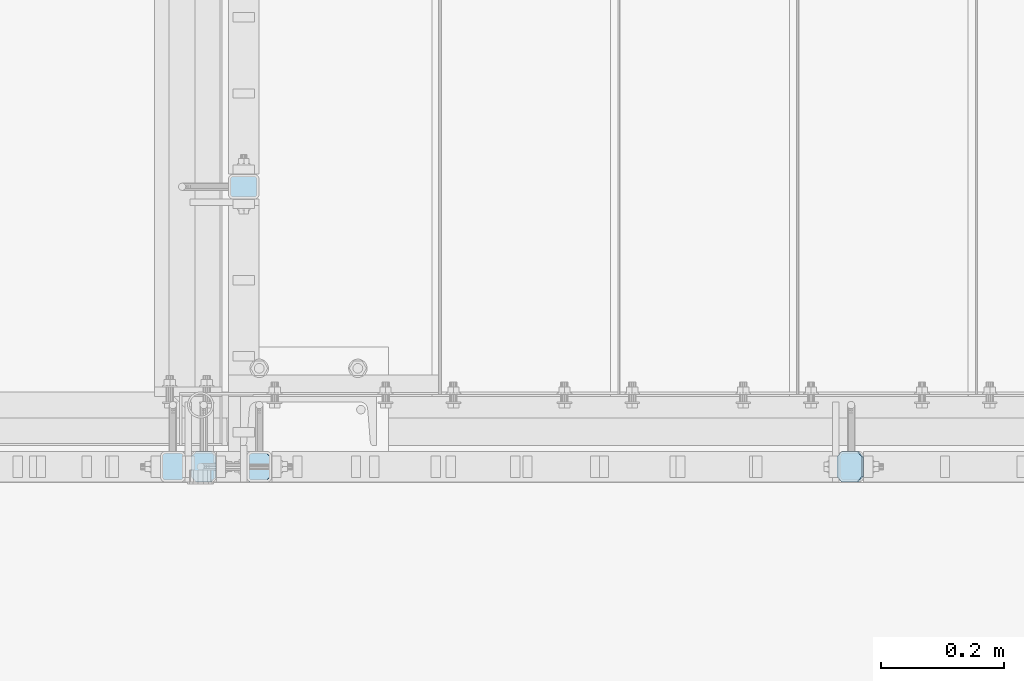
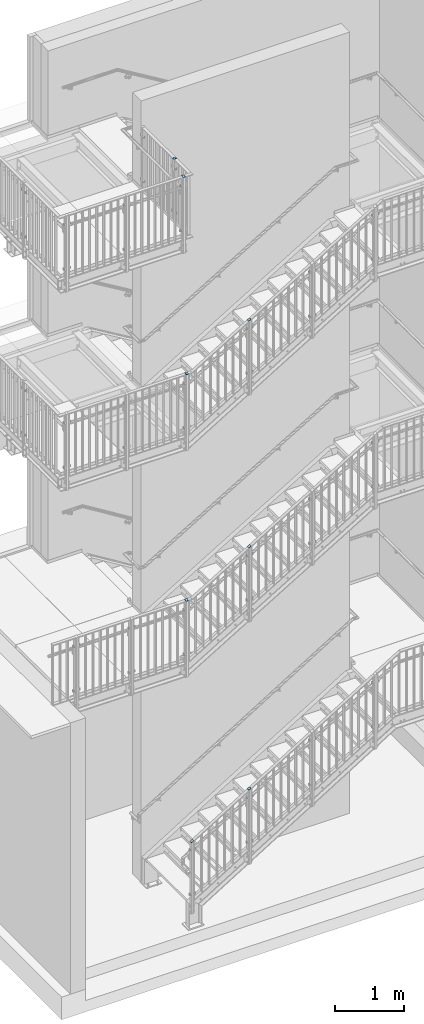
# One storey, part 69 of 410: 8 plates, 32 openings.
"""IFC2X3 building model written with IfcOpenShell, lengths in millimetres."""

from ifc_helpers import new_model, entity, si_unit, converted_unit, point, frame, frame_2d, origin, origin_with_axes, place, context, project, spatial, polyline, circle_curve, line_curve, trimmed, segment, composite_curve, outline, extrude, material, layer, layer_set, element, save


model = new_model("IFC2X3")

# Units and contexts
model_context = context("Model", 3, precision=1e-09, world=origin_with_axes())
ifc_project = project(units=[si_unit("LENGTHUNIT", "METRE", prefix="MILLI"), si_unit("AREAUNIT", "SQUARE_METRE"), si_unit("VOLUMEUNIT", "CUBIC_METRE"), converted_unit("PLANEANGLEUNIT", "DEGREE", entity("IfcPlaneAngleMeasure", 0.01745329), si_unit("PLANEANGLEUNIT", "RADIAN"), dimensions=[0, 0, 0, 0, 0, 0, 0])], contexts=[model_context])

# Site, building, storey
site_placement = place(None, origin_with_axes())
site = spatial("IfcSite", under=ifc_project, at=site_placement, Name="mKR Teilneubau & Sanierung BA1 - Ostfildern", CompositionType="ELEMENT")
building_placement = place(site_placement, origin_with_axes())
building = spatial("IfcBuilding", under=site, at=building_placement, Name="Struktur 1", CompositionType="ELEMENT")
storey_placement = place(building_placement, origin_with_axes())
storey = spatial("IfcBuildingStorey", under=building, at=storey_placement, Name="Default Storey", CompositionType="ELEMENT", Elevation=0.0)

# Plate, openings
ifc_material = material(Name="S235JR")
ifc_layer = layer(ifc_material, 5.0)
ifc_layer_set = layer_set([ifc_layer], Name="S235JR")
plate_1_placement = place(None, frame((-1834.998531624, 15405.999999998, 8595.0), z_axis=(0.0, 0.0, -1.0), x_axis=(0.0, 1.0, 0.0)))
plate_1 = element("IfcPlate", 1, at=plate_1_placement, inside=storey, material=ifc_layer_set, Name="-", ObjectType="-", context=model_context, shape_type="SweptSolid", body=[
    extrude(outline(polyline([(-25.0, -20.0), (25.0, -20.0), (25.0, 20.0), (-25.0, 20.0), (-25.0, -20.0)])), origin_with_axes(), (0.0, 0.0, -1.0), 5.0),
])
opening_1_placement = place(plate_1_placement, frame((25.0, 20.0, 0.01), z_axis=(0.0, 0.0, 1.0), x_axis=(-1.0, 0.0, 0.0)))
element("IfcOpeningElement", 2, at=opening_1_placement, cuts=plate_1, ObjectType="Opening", context=model_context, shape_type="SweptSolid", body=[
    extrude(outline(composite_curve([segment(trimmed(line_curve((0.0, 0.0), (1.0, 0.0), 8.0), [point((0.0, 0.0))], [point((8.0, 0.0))], True, "CARTESIAN"), True, "CONTINUOUS"), segment(trimmed(circle_curve(frame_2d((8.0, 8.0), x_axis=(-1.0, 0.0)), 8.0), [point((8.0, 0.0))], [point((0.0, 8.0))], False, "CARTESIAN"), True, "CONTINUOUS"), segment(trimmed(line_curve((0.0, 8.0), (0.0, -1.0), 8.0), [point((0.0, 8.0))], [point((0.0, 0.0))], True, "CARTESIAN"), True, "CONTINUOUS")], self_intersect=False)), origin(), (0.0, 0.0, -1.0), 5.02),
])
opening_2_placement = place(plate_1_placement, frame((25.0, -20.0, 0.01), z_axis=(0.0, 0.0, 1.0), x_axis=(0.0, 1.0, 0.0)))
element("IfcOpeningElement", 3, at=opening_2_placement, cuts=plate_1, ObjectType="Opening", context=model_context, shape_type="SweptSolid", body=[
    extrude(outline(composite_curve([segment(trimmed(line_curve((0.0, 0.0), (1.0, 0.0), 8.0), [point((0.0, 0.0))], [point((8.0, 0.0))], True, "CARTESIAN"), True, "CONTINUOUS"), segment(trimmed(circle_curve(frame_2d((8.0, 8.0), x_axis=(-1.0, 0.0)), 8.0), [point((8.0, 0.0))], [point((0.0, 8.0))], False, "CARTESIAN"), True, "CONTINUOUS"), segment(trimmed(line_curve((0.0, 8.0), (0.0, -1.0), 8.0), [point((0.0, 8.0))], [point((0.0, 0.0))], True, "CARTESIAN"), True, "CONTINUOUS")], self_intersect=False)), origin(), (0.0, 0.0, -1.0), 5.02),
])
opening_3_placement = place(plate_1_placement, frame((-25.0, -20.0, 0.01), z_axis=(0.0, 0.0, 1.0), x_axis=(1.0, 0.0, 0.0)))
element("IfcOpeningElement", 4, at=opening_3_placement, cuts=plate_1, ObjectType="Opening", context=model_context, shape_type="SweptSolid", body=[
    extrude(outline(composite_curve([segment(trimmed(line_curve((0.0, 0.0), (1.0, 0.0), 8.0), [point((0.0, 0.0))], [point((8.0, 0.0))], True, "CARTESIAN"), True, "CONTINUOUS"), segment(trimmed(circle_curve(frame_2d((8.0, 8.0), x_axis=(-1.0, 0.0)), 8.0), [point((8.0, 0.0))], [point((0.0, 8.0))], False, "CARTESIAN"), True, "CONTINUOUS"), segment(trimmed(line_curve((0.0, 8.0), (0.0, -1.0), 8.0), [point((0.0, 8.0))], [point((0.0, 0.0))], True, "CARTESIAN"), True, "CONTINUOUS")], self_intersect=False)), origin(), (0.0, 0.0, -1.0), 5.02),
])
opening_4_placement = place(plate_1_placement, frame((-25.0, 20.0, 0.01), z_axis=(0.0, 0.0, 1.0), x_axis=(0.0, -1.0, 0.0)))
element("IfcOpeningElement", 5, at=opening_4_placement, cuts=plate_1, ObjectType="Opening", context=model_context, shape_type="SweptSolid", body=[
    extrude(outline(composite_curve([segment(trimmed(line_curve((0.0, 0.0), (1.0, 0.0), 8.0), [point((0.0, 0.0))], [point((8.0, 0.0))], True, "CARTESIAN"), True, "CONTINUOUS"), segment(trimmed(circle_curve(frame_2d((8.0, 8.0), x_axis=(-1.0, 0.0)), 8.0), [point((8.0, 0.0))], [point((0.0, 8.0))], False, "CARTESIAN"), True, "CONTINUOUS"), segment(trimmed(line_curve((0.0, 8.0), (0.0, -1.0), 8.0), [point((0.0, 8.0))], [point((0.0, 0.0))], True, "CARTESIAN"), True, "CONTINUOUS")], self_intersect=False)), origin(), (0.0, 0.0, -1.0), 5.02),
])

plate_2_placement = place(None, frame((-1720.0485317, 15860.0, 8595.0), z_axis=(0.0, 0.0, 1.0), x_axis=(-1.0, 0.0, 0.0)))
plate_2 = element("IfcPlate", 6, at=plate_2_placement, inside=storey, material=ifc_layer_set, Name="-", ObjectType="-", context=model_context, shape_type="SweptSolid", body=[
    extrude(outline(polyline([(-25.0, -20.0), (25.0, -20.0), (25.0, 20.0), (-25.0, 20.0), (-25.0, -20.0)])), origin_with_axes(), (0.0, 0.0, 1.0), 5.0),
])
opening_5_placement = place(plate_2_placement, frame((0.0, 0.0, -0.01), z_axis=(0.0, 0.0, 1.0), x_axis=(1.0, 0.0, 0.0)))
element("IfcOpeningElement", 7, at=opening_5_placement, cuts=plate_2, ObjectType="Opening", context=model_context, shape_type="SweptSolid", body=[
    extrude(outline(composite_curve([segment(trimmed(line_curve((-25.0, -20.0), (1.0, 0.0), 8.0), [point((-25.0, -20.0))], [point((-17.0, -20.0))], True, "CARTESIAN"), True, "CONTINUOUS"), segment(trimmed(circle_curve(frame_2d((-17.0, -12.0), x_axis=(-1.0, 0.0)), 8.0), [point((-17.0, -20.0))], [point((-25.0, -12.0))], False, "CARTESIAN"), True, "CONTINUOUS"), segment(trimmed(line_curve((-25.0, -12.0), (0.0, -1.0), 8.0), [point((-25.0, -12.0))], [point((-25.0, -20.0))], True, "CARTESIAN"), True, "CONTINUOUS")], self_intersect=False)), origin(), (0.0, 0.0, 1.0), 5.02),
])
opening_6_placement = place(plate_2_placement, frame((0.0, 0.0, -0.01), z_axis=(0.0, 0.0, 1.0), x_axis=(1.0, 0.0, 0.0)))
element("IfcOpeningElement", 8, at=opening_6_placement, cuts=plate_2, ObjectType="Opening", context=model_context, shape_type="SweptSolid", body=[
    extrude(outline(composite_curve([segment(trimmed(line_curve((-25.0, 20.0), (0.0, -1.0), 8.0), [point((-25.0, 20.0))], [point((-25.0, 12.0))], True, "CARTESIAN"), True, "CONTINUOUS"), segment(trimmed(circle_curve(frame_2d((-17.0, 12.0), x_axis=(-1.0, 0.0)), 8.0), [point((-25.0, 12.0))], [point((-17.0, 20.0))], False, "CARTESIAN"), True, "CONTINUOUS"), segment(trimmed(line_curve((-17.0, 20.0), (-1.0, 0.0), 8.0), [point((-17.0, 20.0))], [point((-25.0, 20.0))], True, "CARTESIAN"), True, "CONTINUOUS")], self_intersect=False)), origin(), (0.0, 0.0, 1.0), 5.02),
])
opening_7_placement = place(plate_2_placement, frame((0.0, 0.0, -0.01), z_axis=(0.0, 0.0, 1.0), x_axis=(1.0, 0.0, 0.0)))
element("IfcOpeningElement", 9, at=opening_7_placement, cuts=plate_2, ObjectType="Opening", context=model_context, shape_type="SweptSolid", body=[
    extrude(outline(composite_curve([segment(trimmed(line_curve((25.0, 20.0), (-1.0, 0.0), 8.0), [point((25.0, 20.0))], [point((17.0, 20.0))], True, "CARTESIAN"), True, "CONTINUOUS"), segment(trimmed(circle_curve(frame_2d((17.0, 12.0), x_axis=(-1.0, 0.0)), 8.0), [point((17.0, 20.0))], [point((25.0, 12.0))], False, "CARTESIAN"), True, "CONTINUOUS"), segment(trimmed(line_curve((25.0, 12.0), (0.0, 1.0), 8.0), [point((25.0, 12.0))], [point((25.0, 20.0))], True, "CARTESIAN"), True, "CONTINUOUS")], self_intersect=False)), origin(), (0.0, 0.0, 1.0), 5.02),
])
opening_8_placement = place(plate_2_placement, frame((0.0, 0.0, -0.01), z_axis=(0.0, 0.0, 1.0), x_axis=(1.0, 0.0, 0.0)))
element("IfcOpeningElement", 10, at=opening_8_placement, cuts=plate_2, ObjectType="Opening", context=model_context, shape_type="SweptSolid", body=[
    extrude(outline(composite_curve([segment(trimmed(line_curve((25.0, -20.0), (0.0, 1.0), 8.0), [point((25.0, -20.0))], [point((25.0, -12.0))], True, "CARTESIAN"), True, "CONTINUOUS"), segment(trimmed(circle_curve(frame_2d((17.0, -12.0), x_axis=(-1.0, 0.0)), 8.0), [point((25.0, -12.0))], [point((17.0, -20.0))], False, "CARTESIAN"), True, "CONTINUOUS"), segment(trimmed(line_curve((17.0, -20.0), (1.0, 0.0), 8.0), [point((17.0, -20.0))], [point((25.0, -20.0))], True, "CARTESIAN"), True, "CONTINUOUS")], self_intersect=False)), origin(), (0.0, 0.0, 1.0), 5.02),
])

plate_3_placement = place(None, frame((-1784.99853167, 15405.999999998, 5095.0), z_axis=(0.0, 0.0, 1.0), x_axis=(0.0, 1.0, 0.0)))
plate_3 = element("IfcPlate", 11, at=plate_3_placement, inside=storey, material=ifc_layer_set, Name="-", ObjectType="-", context=model_context, shape_type="SweptSolid", body=[
    extrude(outline(polyline([(-25.0, -20.0), (25.0, -20.0), (25.0, 20.0), (-25.0, 20.0), (-25.0, -20.0)])), origin_with_axes(), (0.0, 0.0, 1.0), 5.0),
])
opening_9_placement = place(plate_3_placement, frame((0.0, 0.0, -0.01), z_axis=(0.0, 0.0, 1.0), x_axis=(1.0, 0.0, 0.0)))
element("IfcOpeningElement", 12, at=opening_9_placement, cuts=plate_3, ObjectType="Opening", context=model_context, shape_type="SweptSolid", body=[
    extrude(outline(composite_curve([segment(trimmed(line_curve((25.0, -20.0), (0.0, 1.0), 8.0), [point((25.0, -20.0))], [point((25.0, -12.0))], True, "CARTESIAN"), True, "CONTINUOUS"), segment(trimmed(circle_curve(frame_2d((17.0, -12.0), x_axis=(-1.0, 0.0)), 8.0), [point((25.0, -12.0))], [point((17.0, -20.0))], False, "CARTESIAN"), True, "CONTINUOUS"), segment(trimmed(line_curve((17.0, -20.0), (1.0, 0.0), 8.0), [point((17.0, -20.0))], [point((25.0, -20.0))], True, "CARTESIAN"), True, "CONTINUOUS")], self_intersect=False)), origin(), (0.0, 0.0, 1.0), 5.02),
])
opening_10_placement = place(plate_3_placement, frame((0.0, 0.0, -0.01), z_axis=(0.0, 0.0, 1.0), x_axis=(1.0, 0.0, 0.0)))
element("IfcOpeningElement", 13, at=opening_10_placement, cuts=plate_3, ObjectType="Opening", context=model_context, shape_type="SweptSolid", body=[
    extrude(outline(composite_curve([segment(trimmed(line_curve((-25.0, -20.0), (1.0, 0.0), 8.0), [point((-25.0, -20.0))], [point((-17.0, -20.0))], True, "CARTESIAN"), True, "CONTINUOUS"), segment(trimmed(circle_curve(frame_2d((-17.0, -12.0), x_axis=(-1.0, 0.0)), 8.0), [point((-17.0, -20.0))], [point((-25.0, -12.0))], False, "CARTESIAN"), True, "CONTINUOUS"), segment(trimmed(line_curve((-25.0, -12.0), (0.0, -1.0), 8.0), [point((-25.0, -12.0))], [point((-25.0, -20.0))], True, "CARTESIAN"), True, "CONTINUOUS")], self_intersect=False)), origin(), (0.0, 0.0, 1.0), 5.02),
])
opening_11_placement = place(plate_3_placement, frame((0.0, 0.0, -0.01), z_axis=(0.0, 0.0, 1.0), x_axis=(1.0, 0.0, 0.0)))
element("IfcOpeningElement", 14, at=opening_11_placement, cuts=plate_3, ObjectType="Opening", context=model_context, shape_type="SweptSolid", body=[
    extrude(outline(composite_curve([segment(trimmed(line_curve((-25.0, 20.0), (0.0, -1.0), 8.0), [point((-25.0, 20.0))], [point((-25.0, 12.0))], True, "CARTESIAN"), True, "CONTINUOUS"), segment(trimmed(circle_curve(frame_2d((-17.0, 12.0), x_axis=(-1.0, 0.0)), 8.0), [point((-25.0, 12.0))], [point((-17.0, 20.0))], False, "CARTESIAN"), True, "CONTINUOUS"), segment(trimmed(line_curve((-17.0, 20.0), (-1.0, 0.0), 8.0), [point((-17.0, 20.0))], [point((-25.0, 20.0))], True, "CARTESIAN"), True, "CONTINUOUS")], self_intersect=False)), origin(), (0.0, 0.0, 1.0), 5.02),
])
opening_12_placement = place(plate_3_placement, frame((0.0, 0.0, -0.01), z_axis=(0.0, 0.0, 1.0), x_axis=(1.0, 0.0, 0.0)))
element("IfcOpeningElement", 15, at=opening_12_placement, cuts=plate_3, ObjectType="Opening", context=model_context, shape_type="SweptSolid", body=[
    extrude(outline(composite_curve([segment(trimmed(line_curve((25.0, 20.0), (-1.0, 0.0), 8.0), [point((25.0, 20.0))], [point((17.0, 20.0))], True, "CARTESIAN"), True, "CONTINUOUS"), segment(trimmed(circle_curve(frame_2d((17.0, 12.0), x_axis=(-1.0, 0.0)), 8.0), [point((17.0, 20.0))], [point((25.0, 12.0))], False, "CARTESIAN"), True, "CONTINUOUS"), segment(trimmed(line_curve((25.0, 12.0), (0.0, 1.0), 8.0), [point((25.0, 12.0))], [point((25.0, 20.0))], True, "CARTESIAN"), True, "CONTINUOUS")], self_intersect=False)), origin(), (0.0, 0.0, 1.0), 5.02),
])

plate_4_placement = place(None, frame((-1784.99853167, 15405.999999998, 1095.0), z_axis=(0.0, 0.0, 1.0), x_axis=(0.0, 1.0, 0.0)))
plate_4 = element("IfcPlate", 16, at=plate_4_placement, inside=storey, material=ifc_layer_set, Name="-", ObjectType="-", context=model_context, shape_type="SweptSolid", body=[
    extrude(outline(polyline([(-25.0, -20.0), (25.0, -20.0), (25.0, 20.0), (-25.0, 20.0), (-25.0, -20.0)])), origin_with_axes(), (0.0, 0.0, 1.0), 5.0),
])
opening_13_placement = place(plate_4_placement, frame((0.0, 0.0, -0.01), z_axis=(0.0, 0.0, 1.0), x_axis=(1.0, 0.0, 0.0)))
element("IfcOpeningElement", 17, at=opening_13_placement, cuts=plate_4, ObjectType="Opening", context=model_context, shape_type="SweptSolid", body=[
    extrude(outline(composite_curve([segment(trimmed(line_curve((25.0, 20.0), (-1.0, 0.0), 8.0), [point((25.0, 20.0))], [point((17.0, 20.0))], True, "CARTESIAN"), True, "CONTINUOUS"), segment(trimmed(circle_curve(frame_2d((17.0, 12.0), x_axis=(-1.0, 0.0)), 8.0), [point((17.0, 20.0))], [point((25.0, 12.0))], False, "CARTESIAN"), True, "CONTINUOUS"), segment(trimmed(line_curve((25.0, 12.0), (0.0, 1.0), 8.0), [point((25.0, 12.0))], [point((25.0, 20.0))], True, "CARTESIAN"), True, "CONTINUOUS")], self_intersect=False)), origin(), (0.0, 0.0, 1.0), 5.02),
])
opening_14_placement = place(plate_4_placement, frame((0.0, 0.0, -0.01), z_axis=(0.0, 0.0, 1.0), x_axis=(1.0, 0.0, 0.0)))
element("IfcOpeningElement", 18, at=opening_14_placement, cuts=plate_4, ObjectType="Opening", context=model_context, shape_type="SweptSolid", body=[
    extrude(outline(composite_curve([segment(trimmed(line_curve((25.0, -20.0), (0.0, 1.0), 8.0), [point((25.0, -20.0))], [point((25.0, -12.0))], True, "CARTESIAN"), True, "CONTINUOUS"), segment(trimmed(circle_curve(frame_2d((17.0, -12.0), x_axis=(-1.0, 0.0)), 8.0), [point((25.0, -12.0))], [point((17.0, -20.0))], False, "CARTESIAN"), True, "CONTINUOUS"), segment(trimmed(line_curve((17.0, -20.0), (1.0, 0.0), 8.0), [point((17.0, -20.0))], [point((25.0, -20.0))], True, "CARTESIAN"), True, "CONTINUOUS")], self_intersect=False)), origin(), (0.0, 0.0, 1.0), 5.02),
])
opening_15_placement = place(plate_4_placement, frame((0.0, 0.0, -0.01), z_axis=(0.0, 0.0, 1.0), x_axis=(1.0, 0.0, 0.0)))
element("IfcOpeningElement", 19, at=opening_15_placement, cuts=plate_4, ObjectType="Opening", context=model_context, shape_type="SweptSolid", body=[
    extrude(outline(composite_curve([segment(trimmed(line_curve((-25.0, -20.0), (1.0, 0.0), 8.0), [point((-25.0, -20.0))], [point((-17.0, -20.0))], True, "CARTESIAN"), True, "CONTINUOUS"), segment(trimmed(circle_curve(frame_2d((-17.0, -12.0), x_axis=(-1.0, 0.0)), 8.0), [point((-17.0, -20.0))], [point((-25.0, -12.0))], False, "CARTESIAN"), True, "CONTINUOUS"), segment(trimmed(line_curve((-25.0, -12.0), (0.0, -1.0), 8.0), [point((-25.0, -12.0))], [point((-25.0, -20.0))], True, "CARTESIAN"), True, "CONTINUOUS")], self_intersect=False)), origin(), (0.0, 0.0, 1.0), 5.02),
])
opening_16_placement = place(plate_4_placement, frame((0.0, 0.0, -0.01), z_axis=(0.0, 0.0, 1.0), x_axis=(1.0, 0.0, 0.0)))
element("IfcOpeningElement", 20, at=opening_16_placement, cuts=plate_4, ObjectType="Opening", context=model_context, shape_type="SweptSolid", body=[
    extrude(outline(composite_curve([segment(trimmed(line_curve((-25.0, 20.0), (0.0, -1.0), 8.0), [point((-25.0, 20.0))], [point((-25.0, 12.0))], True, "CARTESIAN"), True, "CONTINUOUS"), segment(trimmed(circle_curve(frame_2d((-17.0, 12.0), x_axis=(-1.0, 0.0)), 8.0), [point((-25.0, 12.0))], [point((-17.0, 20.0))], False, "CARTESIAN"), True, "CONTINUOUS"), segment(trimmed(line_curve((-17.0, 20.0), (-1.0, 0.0), 8.0), [point((-17.0, 20.0))], [point((-25.0, 20.0))], True, "CARTESIAN"), True, "CONTINUOUS")], self_intersect=False)), origin(), (0.0, 0.0, 1.0), 5.02),
])

plate_5_placement = place(None, frame((-735.152280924, 15405.999999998, 1675.786475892), z_axis=(-0.51430666, 0.0, 0.857606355), x_axis=(0.0, 1.0, 0.0)))
plate_5 = element("IfcPlate", 21, at=plate_5_placement, inside=storey, material=ifc_layer_set, Name="-", ObjectType="-", context=model_context, shape_type="SweptSolid", body=[
    extrude(outline(polyline([(-25.0, -23.5), (25.0, -23.5), (25.0, 23.5), (-25.0, 23.5), (-25.0, -23.5)])), origin_with_axes(), (0.0, 0.0, 1.0), 5.0),
])
opening_17_placement = place(plate_5_placement, frame((0.0, -3.5, -0.01), z_axis=(0.0, 0.0, 1.0), x_axis=(1.0, 0.0, 0.0)))
element("IfcOpeningElement", 22, at=opening_17_placement, cuts=plate_5, ObjectType="Opening", context=model_context, shape_type="SweptSolid", body=[
    extrude(outline(composite_curve([segment(trimmed(line_curve((-25.0, 27.0), (0.0, -1.0), 9.0), [point((-25.0, 27.0))], [point((-25.0, 18.0))], True, "CARTESIAN"), True, "CONTINUOUS"), segment(trimmed(circle_curve(frame_2d((-16.0, 18.0), x_axis=(-1.0, 0.0)), 9.0), [point((-25.0, 18.0))], [point((-16.0, 27.0))], False, "CARTESIAN"), True, "CONTINUOUS"), segment(trimmed(line_curve((-16.0, 27.0), (-1.0, 0.0), 9.0), [point((-16.0, 27.0))], [point((-25.0, 27.0))], True, "CARTESIAN"), True, "CONTINUOUS")], self_intersect=False)), origin(), (0.0, 0.0, 1.0), 5.02),
])
opening_18_placement = place(plate_5_placement, frame((0.0, -3.5, -0.01), z_axis=(0.0, 0.0, 1.0), x_axis=(1.0, 0.0, 0.0)))
element("IfcOpeningElement", 23, at=opening_18_placement, cuts=plate_5, ObjectType="Opening", context=model_context, shape_type="SweptSolid", body=[
    extrude(outline(composite_curve([segment(trimmed(line_curve((-25.0, -20.0), (1.0, 0.0), 9.0), [point((-25.0, -20.0))], [point((-16.0, -20.0))], True, "CARTESIAN"), True, "CONTINUOUS"), segment(trimmed(circle_curve(frame_2d((-16.0, -11.0), x_axis=(-1.0, 0.0)), 9.0), [point((-16.0, -20.0))], [point((-25.0, -11.0))], False, "CARTESIAN"), True, "CONTINUOUS"), segment(trimmed(line_curve((-25.0, -11.0), (0.0, -1.0), 9.0), [point((-25.0, -11.0))], [point((-25.0, -20.0))], True, "CARTESIAN"), True, "CONTINUOUS")], self_intersect=False)), origin(), (0.0, 0.0, 1.0), 5.02),
])
opening_19_placement = place(plate_5_placement, frame((0.0, -3.5, -0.01), z_axis=(0.0, 0.0, 1.0), x_axis=(1.0, 0.0, 0.0)))
element("IfcOpeningElement", 24, at=opening_19_placement, cuts=plate_5, ObjectType="Opening", context=model_context, shape_type="SweptSolid", body=[
    extrude(outline(composite_curve([segment(trimmed(line_curve((25.0, -20.0), (0.0, 1.0), 9.0), [point((25.0, -20.0))], [point((25.0, -11.0))], True, "CARTESIAN"), True, "CONTINUOUS"), segment(trimmed(circle_curve(frame_2d((16.0, -11.0), x_axis=(-1.0, 0.0)), 9.0), [point((25.0, -11.0))], [point((16.0, -20.0))], False, "CARTESIAN"), True, "CONTINUOUS"), segment(trimmed(line_curve((16.0, -20.0), (1.0, 0.0), 9.0), [point((16.0, -20.0))], [point((25.0, -20.0))], True, "CARTESIAN"), True, "CONTINUOUS")], self_intersect=False)), origin(), (0.0, 0.0, 1.0), 5.02),
])
opening_20_placement = place(plate_5_placement, frame((0.0, -3.5, -0.01), z_axis=(0.0, 0.0, 1.0), x_axis=(1.0, 0.0, 0.0)))
element("IfcOpeningElement", 25, at=opening_20_placement, cuts=plate_5, ObjectType="Opening", context=model_context, shape_type="SweptSolid", body=[
    extrude(outline(composite_curve([segment(trimmed(line_curve((25.0, 27.0), (-1.0, 0.0), 9.0), [point((25.0, 27.0))], [point((16.0, 27.0))], True, "CARTESIAN"), True, "CONTINUOUS"), segment(trimmed(circle_curve(frame_2d((16.0, 18.0), x_axis=(-1.0, 0.0)), 9.0), [point((16.0, 27.0))], [point((25.0, 18.0))], False, "CARTESIAN"), True, "CONTINUOUS"), segment(trimmed(line_curve((25.0, 18.0), (0.0, 1.0), 9.0), [point((25.0, 18.0))], [point((25.0, 27.0))], True, "CARTESIAN"), True, "CONTINUOUS")], self_intersect=False)), origin(), (0.0, 0.0, 1.0), 5.02),
])

plate_6_placement = place(None, frame((-1695.002599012, 15405.999999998, -3190.910044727), z_axis=(-0.524817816, 0.0, 0.851214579), x_axis=(0.0, 1.0, 0.0)))
plate_6 = element("IfcPlate", 26, at=plate_6_placement, inside=storey, material=ifc_layer_set, Name="-", ObjectType="-", context=model_context, shape_type="SweptSolid", body=[
    extrude(outline(polyline([(-25.0, -23.5), (25.0, -23.5), (25.0, 23.5), (-25.0, 23.5), (-25.0, -23.5)])), origin_with_axes(), (0.0, 0.0, 1.0), 5.0),
])
opening_21_placement = place(plate_6_placement, frame((0.0, -3.5, -0.01), z_axis=(0.0, 0.0, 1.0), x_axis=(1.0, 0.0, 0.0)))
element("IfcOpeningElement", 27, at=opening_21_placement, cuts=plate_6, ObjectType="Opening", context=model_context, shape_type="SweptSolid", body=[
    extrude(outline(composite_curve([segment(trimmed(line_curve((25.0, -20.0), (0.0, 1.0), 9.0), [point((25.0, -20.0))], [point((25.0, -11.0))], True, "CARTESIAN"), True, "CONTINUOUS"), segment(trimmed(circle_curve(frame_2d((16.0, -11.0), x_axis=(-1.0, 0.0)), 9.0), [point((25.0, -11.0))], [point((16.0, -20.0))], False, "CARTESIAN"), True, "CONTINUOUS"), segment(trimmed(line_curve((16.0, -20.0), (1.0, 0.0), 9.0), [point((16.0, -20.0))], [point((25.0, -20.0))], True, "CARTESIAN"), True, "CONTINUOUS")], self_intersect=False)), origin(), (0.0, 0.0, 1.0), 5.02),
])
opening_22_placement = place(plate_6_placement, frame((0.0, -3.5, -0.01), z_axis=(0.0, 0.0, 1.0), x_axis=(1.0, 0.0, 0.0)))
element("IfcOpeningElement", 28, at=opening_22_placement, cuts=plate_6, ObjectType="Opening", context=model_context, shape_type="SweptSolid", body=[
    extrude(outline(composite_curve([segment(trimmed(line_curve((-25.0, -20.0), (1.0, 0.0), 9.0), [point((-25.0, -20.0))], [point((-16.0, -20.0))], True, "CARTESIAN"), True, "CONTINUOUS"), segment(trimmed(circle_curve(frame_2d((-16.0, -11.0), x_axis=(-1.0, 0.0)), 9.0), [point((-16.0, -20.0))], [point((-25.0, -11.0))], False, "CARTESIAN"), True, "CONTINUOUS"), segment(trimmed(line_curve((-25.0, -11.0), (0.0, -1.0), 9.0), [point((-25.0, -11.0))], [point((-25.0, -20.0))], True, "CARTESIAN"), True, "CONTINUOUS")], self_intersect=False)), origin(), (0.0, 0.0, 1.0), 5.02),
])
opening_23_placement = place(plate_6_placement, frame((0.0, -3.5, -0.01), z_axis=(0.0, 0.0, 1.0), x_axis=(1.0, 0.0, 0.0)))
element("IfcOpeningElement", 29, at=opening_23_placement, cuts=plate_6, ObjectType="Opening", context=model_context, shape_type="SweptSolid", body=[
    extrude(outline(composite_curve([segment(trimmed(line_curve((-25.0, 27.0), (0.0, -1.0), 9.0), [point((-25.0, 27.0))], [point((-25.0, 18.0))], True, "CARTESIAN"), True, "CONTINUOUS"), segment(trimmed(circle_curve(frame_2d((-16.0, 18.0), x_axis=(-1.0, 0.0)), 9.0), [point((-25.0, 18.0))], [point((-16.0, 27.0))], False, "CARTESIAN"), True, "CONTINUOUS"), segment(trimmed(line_curve((-16.0, 27.0), (-1.0, 0.0), 9.0), [point((-16.0, 27.0))], [point((-25.0, 27.0))], True, "CARTESIAN"), True, "CONTINUOUS")], self_intersect=False)), origin(), (0.0, 0.0, 1.0), 5.02),
])
opening_24_placement = place(plate_6_placement, frame((0.0, -3.5, -0.01), z_axis=(0.0, 0.0, 1.0), x_axis=(1.0, 0.0, 0.0)))
element("IfcOpeningElement", 30, at=opening_24_placement, cuts=plate_6, ObjectType="Opening", context=model_context, shape_type="SweptSolid", body=[
    extrude(outline(composite_curve([segment(trimmed(line_curve((25.0, 27.0), (-1.0, 0.0), 9.0), [point((25.0, 27.0))], [point((16.0, 27.0))], True, "CARTESIAN"), True, "CONTINUOUS"), segment(trimmed(circle_curve(frame_2d((16.0, 18.0), x_axis=(-1.0, 0.0)), 9.0), [point((16.0, 27.0))], [point((25.0, 18.0))], False, "CARTESIAN"), True, "CONTINUOUS"), segment(trimmed(line_curve((25.0, 18.0), (0.0, 1.0), 9.0), [point((25.0, 18.0))], [point((25.0, 27.0))], True, "CARTESIAN"), True, "CONTINUOUS")], self_intersect=False)), origin(), (0.0, 0.0, 1.0), 5.02),
])

plate_7_placement = place(None, frame((-735.118941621, 15405.999999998, 5679.432043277), z_axis=(-0.516664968, 0.0, 0.856187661), x_axis=(0.0, 1.0, 0.0)))
plate_7 = element("IfcPlate", 31, at=plate_7_placement, inside=storey, material=ifc_layer_set, Name="-", ObjectType="-", context=model_context, shape_type="SweptSolid", body=[
    extrude(outline(polyline([(-25.0, -23.5), (25.0, -23.5), (25.0, 23.5), (-25.0, 23.5), (-25.0, -23.5)])), origin_with_axes(), (0.0, 0.0, 1.0), 5.0),
])
opening_25_placement = place(plate_7_placement, frame((0.0, -3.5, -0.01), z_axis=(0.0, 0.0, 1.0), x_axis=(1.0, 0.0, 0.0)))
element("IfcOpeningElement", 32, at=opening_25_placement, cuts=plate_7, ObjectType="Opening", context=model_context, shape_type="SweptSolid", body=[
    extrude(outline(composite_curve([segment(trimmed(line_curve((25.0, -20.0), (0.0, 1.0), 9.0), [point((25.0, -20.0))], [point((25.0, -11.0))], True, "CARTESIAN"), True, "CONTINUOUS"), segment(trimmed(circle_curve(frame_2d((16.0, -11.0), x_axis=(-1.0, 0.0)), 9.0), [point((25.0, -11.0))], [point((16.0, -20.0))], False, "CARTESIAN"), True, "CONTINUOUS"), segment(trimmed(line_curve((16.0, -20.0), (1.0, 0.0), 9.0), [point((16.0, -20.0))], [point((25.0, -20.0))], True, "CARTESIAN"), True, "CONTINUOUS")], self_intersect=False)), origin(), (0.0, 0.0, 1.0), 5.02),
])
opening_26_placement = place(plate_7_placement, frame((0.0, -3.5, -0.01), z_axis=(0.0, 0.0, 1.0), x_axis=(1.0, 0.0, 0.0)))
element("IfcOpeningElement", 33, at=opening_26_placement, cuts=plate_7, ObjectType="Opening", context=model_context, shape_type="SweptSolid", body=[
    extrude(outline(composite_curve([segment(trimmed(line_curve((-25.0, -20.0), (1.0, 0.0), 9.0), [point((-25.0, -20.0))], [point((-16.0, -20.0))], True, "CARTESIAN"), True, "CONTINUOUS"), segment(trimmed(circle_curve(frame_2d((-16.0, -11.0), x_axis=(-1.0, 0.0)), 9.0), [point((-16.0, -20.0))], [point((-25.0, -11.0))], False, "CARTESIAN"), True, "CONTINUOUS"), segment(trimmed(line_curve((-25.0, -11.0), (0.0, -1.0), 9.0), [point((-25.0, -11.0))], [point((-25.0, -20.0))], True, "CARTESIAN"), True, "CONTINUOUS")], self_intersect=False)), origin(), (0.0, 0.0, 1.0), 5.02),
])
opening_27_placement = place(plate_7_placement, frame((0.0, -3.5, -0.01), z_axis=(0.0, 0.0, 1.0), x_axis=(1.0, 0.0, 0.0)))
element("IfcOpeningElement", 34, at=opening_27_placement, cuts=plate_7, ObjectType="Opening", context=model_context, shape_type="SweptSolid", body=[
    extrude(outline(composite_curve([segment(trimmed(line_curve((-25.0, 27.0), (0.0, -1.0), 9.0), [point((-25.0, 27.0))], [point((-25.0, 18.0))], True, "CARTESIAN"), True, "CONTINUOUS"), segment(trimmed(circle_curve(frame_2d((-16.0, 18.0), x_axis=(-1.0, 0.0)), 9.0), [point((-25.0, 18.0))], [point((-16.0, 27.0))], False, "CARTESIAN"), True, "CONTINUOUS"), segment(trimmed(line_curve((-16.0, 27.0), (-1.0, 0.0), 9.0), [point((-16.0, 27.0))], [point((-25.0, 27.0))], True, "CARTESIAN"), True, "CONTINUOUS")], self_intersect=False)), origin(), (0.0, 0.0, 1.0), 5.02),
])
opening_28_placement = place(plate_7_placement, frame((0.0, -3.5, -0.01), z_axis=(0.0, 0.0, 1.0), x_axis=(1.0, 0.0, 0.0)))
element("IfcOpeningElement", 35, at=opening_28_placement, cuts=plate_7, ObjectType="Opening", context=model_context, shape_type="SweptSolid", body=[
    extrude(outline(composite_curve([segment(trimmed(line_curve((25.0, 27.0), (-1.0, 0.0), 9.0), [point((25.0, 27.0))], [point((16.0, 27.0))], True, "CARTESIAN"), True, "CONTINUOUS"), segment(trimmed(circle_curve(frame_2d((16.0, 18.0), x_axis=(-1.0, 0.0)), 9.0), [point((16.0, 27.0))], [point((25.0, 18.0))], False, "CARTESIAN"), True, "CONTINUOUS"), segment(trimmed(line_curve((25.0, 18.0), (0.0, 1.0), 9.0), [point((25.0, 18.0))], [point((25.0, 27.0))], True, "CARTESIAN"), True, "CONTINUOUS")], self_intersect=False)), origin(), (0.0, 0.0, 1.0), 5.02),
])

plate_8_placement = place(None, frame((-735.002599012, 15405.999999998, -2599.020389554), z_axis=(-0.524817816, 0.0, 0.851214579), x_axis=(0.0, 1.0, 0.0)))
plate_8 = element("IfcPlate", 36, at=plate_8_placement, inside=storey, material=ifc_layer_set, Name="-", ObjectType="-", context=model_context, shape_type="SweptSolid", body=[
    extrude(outline(polyline([(-25.0, -23.5), (25.0, -23.5), (25.0, 23.5), (-25.0, 23.5), (-25.0, -23.5)])), origin_with_axes(), (0.0, 0.0, 1.0), 5.0),
])
opening_29_placement = place(plate_8_placement, frame((0.0, -3.5, -0.01), z_axis=(0.0, 0.0, 1.0), x_axis=(1.0, 0.0, 0.0)))
element("IfcOpeningElement", 37, at=opening_29_placement, cuts=plate_8, ObjectType="Opening", context=model_context, shape_type="SweptSolid", body=[
    extrude(outline(composite_curve([segment(trimmed(line_curve((25.0, -20.0), (0.0, 1.0), 9.0), [point((25.0, -20.0))], [point((25.0, -11.0))], True, "CARTESIAN"), True, "CONTINUOUS"), segment(trimmed(circle_curve(frame_2d((16.0, -11.0), x_axis=(-1.0, 0.0)), 9.0), [point((25.0, -11.0))], [point((16.0, -20.0))], False, "CARTESIAN"), True, "CONTINUOUS"), segment(trimmed(line_curve((16.0, -20.0), (1.0, 0.0), 9.0), [point((16.0, -20.0))], [point((25.0, -20.0))], True, "CARTESIAN"), True, "CONTINUOUS")], self_intersect=False)), origin(), (0.0, 0.0, 1.0), 5.02),
])
opening_30_placement = place(plate_8_placement, frame((0.0, -3.5, -0.01), z_axis=(0.0, 0.0, 1.0), x_axis=(1.0, 0.0, 0.0)))
element("IfcOpeningElement", 38, at=opening_30_placement, cuts=plate_8, ObjectType="Opening", context=model_context, shape_type="SweptSolid", body=[
    extrude(outline(composite_curve([segment(trimmed(line_curve((-25.0, -20.0), (1.0, 0.0), 9.0), [point((-25.0, -20.0))], [point((-16.0, -20.0))], True, "CARTESIAN"), True, "CONTINUOUS"), segment(trimmed(circle_curve(frame_2d((-16.0, -11.0), x_axis=(-1.0, 0.0)), 9.0), [point((-16.0, -20.0))], [point((-25.0, -11.0))], False, "CARTESIAN"), True, "CONTINUOUS"), segment(trimmed(line_curve((-25.0, -11.0), (0.0, -1.0), 9.0), [point((-25.0, -11.0))], [point((-25.0, -20.0))], True, "CARTESIAN"), True, "CONTINUOUS")], self_intersect=False)), origin(), (0.0, 0.0, 1.0), 5.02),
])
opening_31_placement = place(plate_8_placement, frame((0.0, -3.5, -0.01), z_axis=(0.0, 0.0, 1.0), x_axis=(1.0, 0.0, 0.0)))
element("IfcOpeningElement", 39, at=opening_31_placement, cuts=plate_8, ObjectType="Opening", context=model_context, shape_type="SweptSolid", body=[
    extrude(outline(composite_curve([segment(trimmed(line_curve((-25.0, 27.0), (0.0, -1.0), 9.0), [point((-25.0, 27.0))], [point((-25.0, 18.0))], True, "CARTESIAN"), True, "CONTINUOUS"), segment(trimmed(circle_curve(frame_2d((-16.0, 18.0), x_axis=(-1.0, 0.0)), 9.0), [point((-25.0, 18.0))], [point((-16.0, 27.0))], False, "CARTESIAN"), True, "CONTINUOUS"), segment(trimmed(line_curve((-16.0, 27.0), (-1.0, 0.0), 9.0), [point((-16.0, 27.0))], [point((-25.0, 27.0))], True, "CARTESIAN"), True, "CONTINUOUS")], self_intersect=False)), origin(), (0.0, 0.0, 1.0), 5.02),
])
opening_32_placement = place(plate_8_placement, frame((0.0, -3.5, -0.01), z_axis=(0.0, 0.0, 1.0), x_axis=(1.0, 0.0, 0.0)))
element("IfcOpeningElement", 40, at=opening_32_placement, cuts=plate_8, ObjectType="Opening", context=model_context, shape_type="SweptSolid", body=[
    extrude(outline(composite_curve([segment(trimmed(line_curve((25.0, 27.0), (-1.0, 0.0), 9.0), [point((25.0, 27.0))], [point((16.0, 27.0))], True, "CARTESIAN"), True, "CONTINUOUS"), segment(trimmed(circle_curve(frame_2d((16.0, 18.0), x_axis=(-1.0, 0.0)), 9.0), [point((16.0, 27.0))], [point((25.0, 18.0))], False, "CARTESIAN"), True, "CONTINUOUS"), segment(trimmed(line_curve((25.0, 18.0), (0.0, 1.0), 9.0), [point((25.0, 18.0))], [point((25.0, 27.0))], True, "CARTESIAN"), True, "CONTINUOUS")], self_intersect=False)), origin(), (0.0, 0.0, 1.0), 5.02),
])

save(model, "model.ifc")
